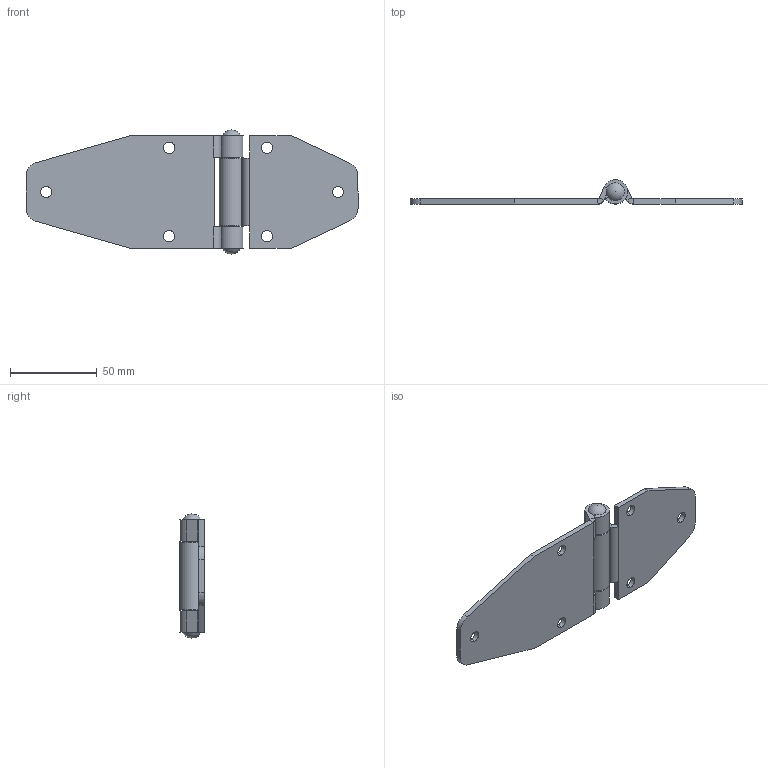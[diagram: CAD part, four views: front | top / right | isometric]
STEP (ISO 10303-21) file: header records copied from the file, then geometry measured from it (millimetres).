
FILE_DESCRIPTION (( 'STEP AP214' ), '1' );
FILE_NAME ('3.ST 35.001.STEP', '2010-02-18T16:38:27', ( 'Rak' ), ( 'ROZTOCZE' ), 'SwSTEP 2.0', 'SolidWorks 2004231', '' );
FILE_SCHEMA (( 'AUTOMOTIVE_DESIGN' ));
Length unit declared in the file: millimetre
Products named in the file (6): do sworznia_Domyœlna; sworzen do zlozenia_Domyœlna; 3.ST 35.003.03_Domyœlna; 3.ST 35.001; 3.ST 35.003.01_Domyœlna; 3.ST 35.003.02_Domyœlna
Assembly tree (6 placements, depth 3):
  3.ST 35.001
    3.ST 35.003.02_Domyœlna
    sworzen do zlozenia_Domyœlna
      do sworznia_Domyœlna  x2
      3.ST 35.003.03_Domyœlna
    3.ST 35.003.01_Domyœlna
Bounding box: 191.4 x 13.99 x 71.5 mm (x, y, z)
Volume: 38519.5 mm3; surface area: 28116.9 mm2
Topology: 5 solids, 5 shells, 84 faces, 196 edges, 120 vertices
Faces by surface type: plane 52, cylinder 30, sphere 2
Entity records: 2514 total; most frequent: DIRECTION 438, CARTESIAN_POINT 398, ORIENTED_EDGE 380, EDGE_CURVE 190, AXIS2_PLACEMENT_3D 156, VECTOR 126, LINE 126, VERTEX_POINT 116
